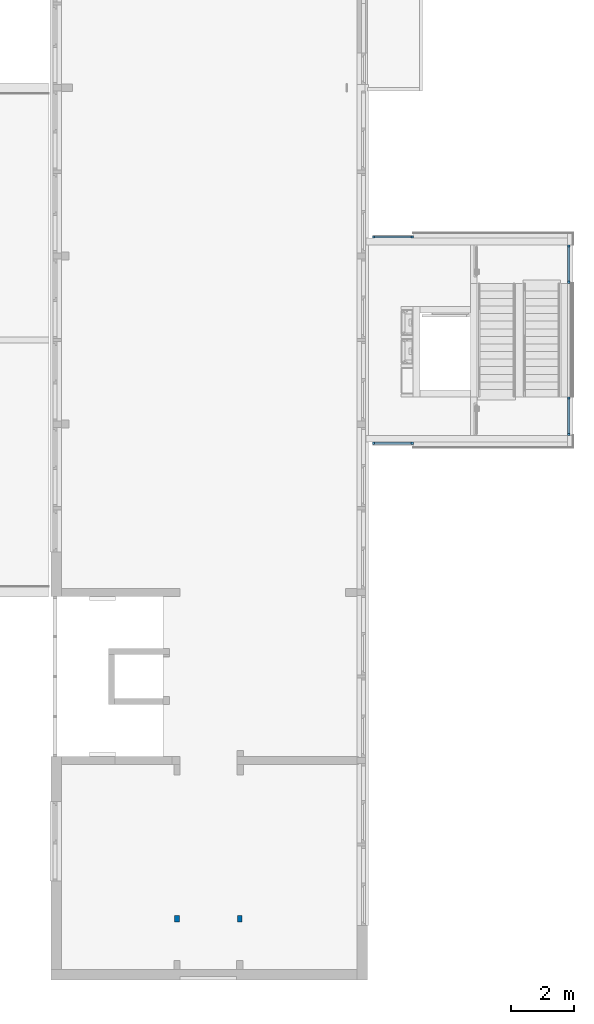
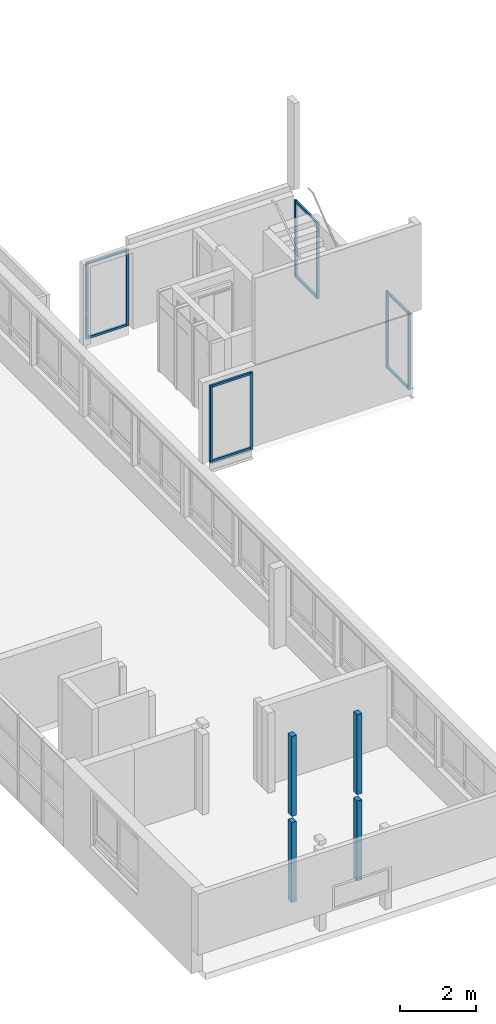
# One storey, part 1 of 14: 16 members, 2 columns, 4 elements without a shape of their own.
"""IFC2X3 building model written with IfcOpenShell, lengths in millimetres."""

from ifc_helpers import new_model, entity, si_unit, converted_unit, derived_unit, money_unit, direction, frame, origin_with_axes, place, context, subcontext, project, spatial, faceted_brep, source, transform, mapped, material, type_object, type_shapes, element, aggregate, save


model = new_model("IFC2X3")

# Units and contexts
model_context = context("Model", 3, precision=0.01, world=origin_with_axes(), true_north=direction((0.0, 1.0)))
body_context = subcontext(model_context, "Body", "Model", "MODEL_VIEW")
ifc_project = project(units=[si_unit("LENGTHUNIT", "METRE", prefix="MILLI"), si_unit("AREAUNIT", "SQUARE_METRE"), si_unit("VOLUMEUNIT", "CUBIC_METRE"), converted_unit("PLANEANGLEUNIT", "DEGREE", entity("IfcPlaneAngleMeasure", 0.0174532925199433), si_unit("PLANEANGLEUNIT", "RADIAN"), dimensions=[0, 0, 0, 0, 0, 0, 0]), money_unit("EUR"), converted_unit("TIMEUNIT", "Year", entity("IfcTimeMeasure", 31557600.0), si_unit("TIMEUNIT", "SECOND"), dimensions=[0, 0, 1, 0, 0, 0, 0]), si_unit("MASSUNIT", "GRAM", prefix="KILO"), si_unit("THERMODYNAMICTEMPERATUREUNIT", "DEGREE_CELSIUS"), si_unit("LUMINOUSINTENSITYUNIT", "LUMEN"), si_unit("ENERGYUNIT", "JOULE", prefix="MEGA"), derived_unit("THERMALCONDUCTANCEUNIT", [(si_unit("POWERUNIT", "WATT"), 1), (si_unit("LENGTHUNIT", "METRE"), -1), (si_unit("THERMODYNAMICTEMPERATUREUNIT", "KELVIN"), -1)]), derived_unit("SPECIFICHEATCAPACITYUNIT", [(si_unit("ENERGYUNIT", "JOULE"), 1), (si_unit("MASSUNIT", "GRAM", prefix="KILO"), -1), (si_unit("THERMODYNAMICTEMPERATUREUNIT", "KELVIN"), -1)]), derived_unit("MASSDENSITYUNIT", [(si_unit("MASSUNIT", "GRAM", prefix="KILO"), 1), (si_unit("VOLUMEUNIT", "CUBIC_METRE"), -1)])], contexts=[model_context])

# Site, building, storey
site_placement = place(None, origin_with_axes())
site = spatial("IfcSite", under=ifc_project, at=site_placement, Name="Site", CompositionType="ELEMENT")
building_placement = place(site_placement, origin_with_axes())
building = spatial("IfcBuilding", under=site, at=building_placement, Name="Naam gebouw", CompositionType="ELEMENT")
storey_placement = place(building_placement, frame((0.0, 0.0, 11460.0), z_axis=(0.0, 0.0, 1.0), x_axis=(1.0, 0.0, 0.0)))
storey = spatial("IfcBuildingStorey", under=building, at=storey_placement, Name="3e verdieping V", CompositionType="ELEMENT", Elevation=11460.0)

# Columns
ifc_material_1 = material(Name="ALG - CONSTRUCTIEF")
column_type = type_object("IfcColumnType", Name="ALG - CONSTRUCTIEF 200 x 150", PredefinedType="COLUMN")
for number, where, z_axis, x_axis, name in (
    (1, (26189.99999999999, 17615.91242510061, -99.99999999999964), (0.0, 0.0, 1.0), (0.0, -1.0, 0.0), "_Kolom-x"),
    (2, (24200.0, 17615.91242510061, -99.99999999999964), (0.0, 0.0, 1.0), (0.0, -1.0, 0.0), "_Kolom-x"),
):
    element("IfcColumn", number, at=place(storey_placement, frame(where, z_axis=z_axis, x_axis=x_axis)), inside=storey, type_object=column_type, material=ifc_material_1, Name=name, ObjectType="COLUMN", context=body_context, shape_type="Brep", body=[
        faceted_brep([(100.0000000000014, 74.99999999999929, 2670.0), (100.0000000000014, 74.99999999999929, 99.99999999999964), (-100.0000000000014, 74.99999999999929, 99.99999999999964), (-100.0000000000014, 74.99999999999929, 2670.0), (100.0000000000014, -74.99999999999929, 2670.0), (100.0000000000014, -74.99999999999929, 99.99999999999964), (-100.0000000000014, -74.99999999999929, 99.99999999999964), (-100.0000000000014, -74.99999999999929, 2670.0)], [[[0, 1, 2, 3]], [[4, 5, 1, 0]], [[5, 6, 2, 1]], [[3, 2, 6, 7]], [[4, 0, 3, 7]], [[7, 6, 5, 4]]]),
        faceted_brep([(100.0000000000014, 74.99999999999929, 5439.999999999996), (100.0000000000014, 74.99999999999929, 2869.999999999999), (-100.0000000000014, 74.99999999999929, 2869.999999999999), (-100.0000000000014, 74.99999999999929, 5439.999999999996), (100.0000000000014, -74.99999999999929, 5439.999999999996), (100.0000000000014, -74.99999999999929, 2869.999999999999), (-100.0000000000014, -74.99999999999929, 2869.999999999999), (-100.0000000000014, -74.99999999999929, 5439.999999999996)], [[[0, 1, 2, 3]], [[4, 5, 1, 0]], [[5, 6, 2, 1]], [[3, 2, 6, 7]], [[0, 3, 7, 4]], [[7, 6, 5, 4]]]),
    ])

# Curtain wall, member
curtain_wall_type = type_object("IfcCurtainWallType", Name="Curtain Wall:21_CW_alu kozijn 070x065", PredefinedType="NOTDEFINED")
curtain_wall_1_placement = place(storey_placement, frame((0.0, 0.0, -11460.0), z_axis=(0.0, 0.0, 1.0), x_axis=(1.0, 0.0, 0.0)))
curtain_wall_1 = element("IfcCurtainWall", 3, at=curtain_wall_1_placement, inside=storey, type_object=curtain_wall_type, Name="Curtain Wall:21_CW_alu kozijn 070x065", ObjectType="Curtain Wall:21_CW_alu kozijn 070x065")
ifc_material_2 = material(Name="RAL 7024 - Grafietgrijs")
member_type_1 = type_object("IfcMemberType", Name="Rectangular Mullion:31_alu_070x065 RAL 7024", PredefinedType="MULLION")
shared_shape_1 = source(origin_with_axes(), body_context, "Body", "Brep", [
    faceted_brep([(32.49999999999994, 1080.0, 0.0), (32.49999999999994, 1080.0, 70.0), (32.50000000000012, 0.0, 70.0), (32.50000000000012, 0.0, 0.0), (-32.50000000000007, 1080.0, 0.0), (-32.50000000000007, 1080.0, 70.0), (-32.4999999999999, 0.0, 70.0), (-32.4999999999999, 0.0, 0.0)], [[[0, 1, 2, 3]], [[0, 4, 5, 1]], [[1, 5, 6, 2]], [[3, 2, 6, 7]], [[4, 0, 3, 7]], [[5, 4, 7, 6]]]),
])
type_shapes(member_type_1, [shared_shape_1])
member_1_placement = place(curtain_wall_1_placement, frame((36612.50000004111, 34075.91242634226, 14230.00000000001), z_axis=(0.0, 0.0, 1.0), x_axis=(-1.0, 0.0, 0.0)))
member_1 = element("IfcMember", 4, at=member_1_placement, type_object=member_type_1, material=ifc_material_2, Name="Rectangular Mullion:31_alu_070x065 RAL 7024", ObjectType="MULLION", context=body_context, shape_type="MappedRepresentation", body=[
    mapped(shared_shape_1, transform((0.0, 0.0, 0.0))),
])

curtain_wall_2_placement = place(storey_placement, frame((0.0, 0.0, -11460.0), z_axis=(0.0, 0.0, 1.0), x_axis=(1.0, 0.0, 0.0)))
curtain_wall_2 = element("IfcCurtainWall", 5, at=curtain_wall_2_placement, inside=storey, type_object=curtain_wall_type, Name="Curtain Wall:21_CW_alu kozijn 070x065", ObjectType="Curtain Wall:21_CW_alu kozijn 070x065")
member_2_placement = place(curtain_wall_2_placement, frame((36612.50000007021, 38895.91242629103, 14230.00000000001), z_axis=(0.0, 0.0, 1.0), x_axis=(-1.0, 0.0, 0.0)))
member_2 = element("IfcMember", 6, at=member_2_placement, type_object=member_type_1, material=ifc_material_2, Name="Rectangular Mullion:31_alu_070x065 RAL 7024", ObjectType="MULLION", context=body_context, shape_type="MappedRepresentation", body=[
    mapped(shared_shape_1, transform((0.0, 0.0, 0.0))),
])

# Member
member_type_2 = type_object("IfcMemberType", Name="Rectangular Mullion:31_alu_070x065 RAL 7024", PredefinedType="MULLION")
shared_shape_2 = source(origin_with_axes(), body_context, "Body", "Brep", [
    faceted_brep([(0.0, -32.5, 2470.0), (-70.0, -32.50000000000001, 2470.0), (-70.0, -32.50000000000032, 0.0), (0.0, -32.50000000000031, 0.0), (0.0, 32.50000000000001, 2470.0), (-70.0, 32.5, 2470.0), (-70.0, 32.49999999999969, 0.0), (0.0, 32.49999999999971, 0.0)], [[[0, 1, 2, 3]], [[0, 4, 5, 1]], [[1, 5, 6, 2]], [[3, 2, 6, 7]], [[4, 0, 3, 7]], [[5, 4, 7, 6]]]),
])
type_shapes(member_type_2, [shared_shape_2])
member_3_placement = place(curtain_wall_1_placement, frame((36612.50000004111, 32925.91242626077, 14230.00000000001), z_axis=(0.0, 0.0, 1.0), x_axis=(0.0, -1.0, 0.0)))
member_3 = element("IfcMember", 7, at=member_3_placement, type_object=member_type_2, material=ifc_material_2, Name="Rectangular Mullion:31_alu_070x065 RAL 7024", ObjectType="MULLION", context=body_context, shape_type="MappedRepresentation", body=[
    mapped(shared_shape_2, transform((0.0, 0.0, 0.0))),
])

member_4_placement = place(curtain_wall_2_placement, frame((36612.50000001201, 37745.91242632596, 14230.00000000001), z_axis=(0.0, 0.0, 1.0), x_axis=(0.0, -1.0, 0.0)))
member_4 = element("IfcMember", 8, at=member_4_placement, type_object=member_type_2, material=ifc_material_2, Name="Rectangular Mullion:31_alu_070x065 RAL 7024", ObjectType="MULLION", context=body_context, shape_type="MappedRepresentation", body=[
    mapped(shared_shape_2, transform((0.0, 0.0, 0.0))),
])

# Curtain wall, member
curtain_wall_3_placement = place(storey_placement, frame((0.0, 0.0, -11460.0), z_axis=(0.0, 0.0, 1.0), x_axis=(1.0, 0.0, 0.0)))
curtain_wall_3 = element("IfcCurtainWall", 9, at=curtain_wall_3_placement, inside=storey, type_object=curtain_wall_type, Name="Curtain Wall:21_CW_alu kozijn 070x065", ObjectType="Curtain Wall:21_CW_alu kozijn 070x065")
member_type_3 = type_object("IfcMemberType", Name="Rectangular Mullion:31_alu_070x065 RAL 7024", PredefinedType="MULLION")
type_shapes(member_type_3, [shared_shape_2])
member_5_placement = place(curtain_wall_3_placement, frame((30391.00000005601, 39212.4124263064, 14230.00000000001), z_axis=(0.0, 0.0, 1.0), x_axis=(-1.0, 0.0, 0.0)))
member_5 = element("IfcMember", 10, at=member_5_placement, type_object=member_type_3, material=ifc_material_2, Name="Rectangular Mullion:31_alu_070x065 RAL 7024", ObjectType="MULLION", context=body_context, shape_type="MappedRepresentation", body=[
    mapped(shared_shape_2, transform((0.0, 0.0, 0.0))),
])

curtain_wall_4_placement = place(storey_placement, frame((0.0, 0.0, -11460.0), z_axis=(0.0, 0.0, 1.0), x_axis=(1.0, 0.0, 0.0)))
curtain_wall_4 = element("IfcCurtainWall", 11, at=curtain_wall_4_placement, inside=storey, type_object=curtain_wall_type, Name="Curtain Wall:21_CW_alu kozijn 070x065", ObjectType="Curtain Wall:21_CW_alu kozijn 070x065")
member_6_placement = place(curtain_wall_4_placement, frame((30391.00000002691, 32679.41242631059, 14230.00000000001), z_axis=(0.0, 0.0, 1.0), x_axis=(-1.0, 0.0, 0.0)))
member_6 = element("IfcMember", 12, at=member_6_placement, type_object=member_type_2, material=ifc_material_2, Name="Rectangular Mullion:31_alu_070x065 RAL 7024", ObjectType="MULLION", context=body_context, shape_type="MappedRepresentation", body=[
    mapped(shared_shape_2, transform((0.0, 0.0, 0.0))),
])

# Member
member_type_4 = type_object("IfcMemberType", Name="Rectangular Mullion:31_alu_070x065 RAL 7024", PredefinedType="MULLION")
shared_shape_3 = source(origin_with_axes(), body_context, "Body", "Brep", [
    faceted_brep([(0.0, 32.5, -2470.0), (-70.0, 32.50000000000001, -2470.0), (-70.0, 32.50000000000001, 0.0), (0.0, 32.5, 0.0), (0.0, -32.50000000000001, -2470.0), (-70.0, -32.5, -2470.0), (-70.0, -32.5, 0.0), (0.0, -32.50000000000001, 0.0)], [[[0, 1, 2, 3]], [[0, 4, 5, 1]], [[1, 5, 6, 2]], [[3, 2, 6, 7]], [[4, 0, 3, 7]], [[5, 4, 7, 6]]]),
])
type_shapes(member_type_4, [shared_shape_3])
member_7_placement = place(curtain_wall_1_placement, frame((36612.50000001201, 34145.91242634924, 16700.00000000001), z_axis=(0.0, 0.0, 1.0), x_axis=(0.0, 1.0, 0.0)))
member_7 = element("IfcMember", 13, at=member_7_placement, type_object=member_type_4, material=ifc_material_2, Name="Rectangular Mullion:31_alu_070x065 RAL 7024", ObjectType="MULLION", context=body_context, shape_type="MappedRepresentation", body=[
    mapped(shared_shape_3, transform((0.0, 0.0, 0.0))),
])

member_8_placement = place(curtain_wall_2_placement, frame((36612.50000004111, 38965.91242629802, 16700.00000000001), z_axis=(0.0, 0.0, 1.0), x_axis=(0.0, 1.0, 0.0)))
member_8 = element("IfcMember", 14, at=member_8_placement, type_object=member_type_4, material=ifc_material_2, Name="Rectangular Mullion:31_alu_070x065 RAL 7024", ObjectType="MULLION", context=body_context, shape_type="MappedRepresentation", body=[
    mapped(shared_shape_3, transform((0.0, 0.0, 0.0))),
])

member_type_5 = type_object("IfcMemberType", Name="Rectangular Mullion:31_alu_070x065 RAL 7024", PredefinedType="MULLION")
type_shapes(member_type_5, [shared_shape_3])
member_9_placement = place(curtain_wall_3_placement, frame((31685.01028266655, 39212.4124263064, 16700.00000000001), z_axis=(0.0, 0.0, 1.0), x_axis=(1.0, 0.0, 0.0)))
member_9 = element("IfcMember", 15, at=member_9_placement, type_object=member_type_5, material=ifc_material_2, Name="Rectangular Mullion:31_alu_070x065 RAL 7024", ObjectType="MULLION", context=body_context, shape_type="MappedRepresentation", body=[
    mapped(shared_shape_3, transform((0.0, 0.0, 0.0))),
])

member_10_placement = place(curtain_wall_4_placement, frame((31685.01028266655, 32679.41242631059, 16700.00000000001), z_axis=(0.0, 0.0, 1.0), x_axis=(1.0, 0.0, 0.0)))
member_10 = element("IfcMember", 16, at=member_10_placement, type_object=member_type_4, material=ifc_material_2, Name="Rectangular Mullion:31_alu_070x065 RAL 7024", ObjectType="MULLION", context=body_context, shape_type="MappedRepresentation", body=[
    mapped(shared_shape_3, transform((0.0, 0.0, 0.0))),
])

member_type_6 = type_object("IfcMemberType", Name="Rectangular Mullion:31_alu_070x065 RAL 7024", PredefinedType="MULLION")
shared_shape_4 = source(origin_with_axes(), body_context, "Body", "Brep", [
    faceted_brep([(32.50000000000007, -1080.0, 0.0), (32.50000000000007, -1080.0, -70.0), (32.4999999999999, 0.0, -70.0), (32.4999999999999, 0.0, 0.0), (-32.49999999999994, -1080.0, 0.0), (-32.49999999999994, -1080.0, -70.0), (-32.50000000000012, 0.0, -70.0), (-32.50000000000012, 0.0, 0.0)], [[[0, 1, 2, 3]], [[0, 4, 5, 1]], [[1, 5, 6, 2]], [[3, 2, 6, 7]], [[4, 0, 3, 7]], [[5, 4, 7, 6]]]),
])
type_shapes(member_type_6, [shared_shape_4])
member_11_placement = place(curtain_wall_1_placement, frame((36612.50000004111, 32995.91242626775, 16700.00000000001), z_axis=(0.0, 0.0, 1.0), x_axis=(-1.0, 0.0, 0.0)))
member_11 = element("IfcMember", 17, at=member_11_placement, type_object=member_type_6, material=ifc_material_2, Name="Rectangular Mullion:31_alu_070x065 RAL 7024", ObjectType="MULLION", context=body_context, shape_type="MappedRepresentation", body=[
    mapped(shared_shape_4, transform((0.0, 0.0, 0.0))),
])

aggregate(curtain_wall_1, [member_1, member_3, member_11, member_7])

member_12_placement = place(curtain_wall_2_placement, frame((36612.50000001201, 37815.91242633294, 16700.00000000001), z_axis=(0.0, 0.0, 1.0), x_axis=(-1.0, 0.0, 0.0)))
member_12 = element("IfcMember", 18, at=member_12_placement, type_object=member_type_6, material=ifc_material_2, Name="Rectangular Mullion:31_alu_070x065 RAL 7024", ObjectType="MULLION", context=body_context, shape_type="MappedRepresentation", body=[
    mapped(shared_shape_4, transform((0.0, 0.0, 0.0))),
])

aggregate(curtain_wall_2, [member_4, member_2, member_8, member_12])

member_type_7 = type_object("IfcMemberType", Name="Rectangular Mullion:31_alu_070x065 RAL 7024", PredefinedType="MULLION")
shared_shape_5 = source(origin_with_axes(), body_context, "Body", "Brep", [
    faceted_brep([(32.49999999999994, 1154.0, 0.0), (32.49999999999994, 1154.0, 70.0), (32.50000000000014, -2.993161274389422e-10, 70.0), (32.50000000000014, -2.993161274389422e-10, 0.0), (-32.50000000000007, 1154.0, 0.0), (-32.50000000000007, 1154.0, 70.0), (-32.49999999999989, -2.993161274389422e-10, 70.0), (-32.49999999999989, -2.993161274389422e-10, 0.0)], [[[0, 1, 2, 3]], [[0, 4, 5, 1]], [[1, 5, 6, 2]], [[3, 2, 6, 7]], [[4, 0, 3, 7]], [[5, 4, 7, 6]]]),
])
type_shapes(member_type_7, [shared_shape_5])
member_13_placement = place(curtain_wall_3_placement, frame((31615.01028265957, 39212.4124263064, 14230.00000000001), z_axis=(0.0, 0.0, 1.0), x_axis=(0.0, 1.0, 0.0)))
member_13 = element("IfcMember", 19, at=member_13_placement, type_object=member_type_7, material=ifc_material_2, Name="Rectangular Mullion:31_alu_070x065 RAL 7024", ObjectType="MULLION", context=body_context, shape_type="MappedRepresentation", body=[
    mapped(shared_shape_5, transform((0.0, 0.0, 0.0))),
])

member_type_8 = type_object("IfcMemberType", Name="Rectangular Mullion:31_alu_070x065 RAL 7024", PredefinedType="MULLION")
type_shapes(member_type_8, [shared_shape_5])
member_14_placement = place(curtain_wall_4_placement, frame((31615.01028263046, 32679.41242631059, 14230.00000000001), z_axis=(0.0, 0.0, 1.0), x_axis=(0.0, 1.0, 0.0)))
member_14 = element("IfcMember", 20, at=member_14_placement, type_object=member_type_8, material=ifc_material_2, Name="Rectangular Mullion:31_alu_070x065 RAL 7024", ObjectType="MULLION", context=body_context, shape_type="MappedRepresentation", body=[
    mapped(shared_shape_5, transform((0.0, 0.0, 0.0))),
])

member_type_9 = type_object("IfcMemberType", Name="Rectangular Mullion:31_alu_070x065 RAL 7024", PredefinedType="MULLION")
shared_shape_6 = source(origin_with_axes(), body_context, "Body", "Brep", [
    faceted_brep([(32.50000000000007, -1154.0, 0.0), (32.50000000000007, -1154.0, -70.0), (32.49999999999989, 2.993161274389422e-10, -70.0), (32.49999999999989, 2.993161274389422e-10, 0.0), (-32.49999999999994, -1154.0, 0.0), (-32.49999999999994, -1154.0, -70.0), (-32.50000000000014, 2.993161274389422e-10, -70.0), (-32.50000000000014, 2.993161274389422e-10, 0.0)], [[[0, 1, 2, 3]], [[0, 4, 5, 1]], [[1, 5, 6, 2]], [[3, 2, 6, 7]], [[4, 0, 3, 7]], [[5, 4, 7, 6]]]),
])
type_shapes(member_type_9, [shared_shape_6])
member_15_placement = place(curtain_wall_3_placement, frame((30461.00000003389, 39212.41242624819, 16700.00000000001), z_axis=(0.0, 0.0, 1.0), x_axis=(0.0, 1.0, 0.0)))
member_15 = element("IfcMember", 21, at=member_15_placement, type_object=member_type_9, material=ifc_material_2, Name="Rectangular Mullion:31_alu_070x065 RAL 7024", ObjectType="MULLION", context=body_context, shape_type="MappedRepresentation", body=[
    mapped(shared_shape_6, transform((0.0, 0.0, 0.0))),
])

aggregate(curtain_wall_3, [member_5, member_9, member_15, member_13])

member_type_10 = type_object("IfcMemberType", Name="Rectangular Mullion:31_alu_070x065 RAL 7024", PredefinedType="MULLION")
type_shapes(member_type_10, [shared_shape_6])
member_16_placement = place(curtain_wall_4_placement, frame((30461.00000003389, 32679.41242631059, 16700.00000000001), z_axis=(0.0, 0.0, 1.0), x_axis=(0.0, 1.0, 0.0)))
member_16 = element("IfcMember", 22, at=member_16_placement, type_object=member_type_10, material=ifc_material_2, Name="Rectangular Mullion:31_alu_070x065 RAL 7024", ObjectType="MULLION", context=body_context, shape_type="MappedRepresentation", body=[
    mapped(shared_shape_6, transform((0.0, 0.0, 0.0))),
])

aggregate(curtain_wall_4, [member_6, member_14, member_16, member_10])

save(model, "model.ifc")
